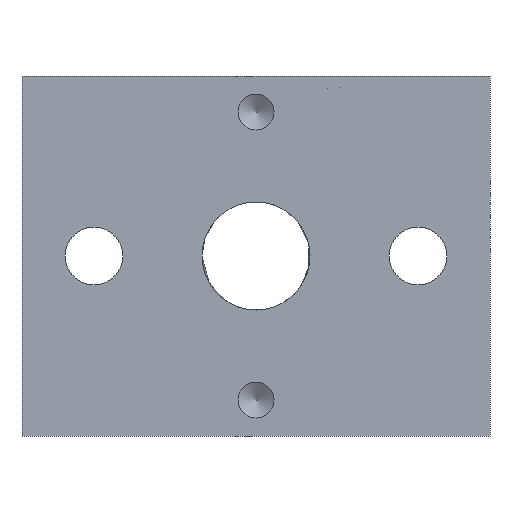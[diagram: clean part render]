
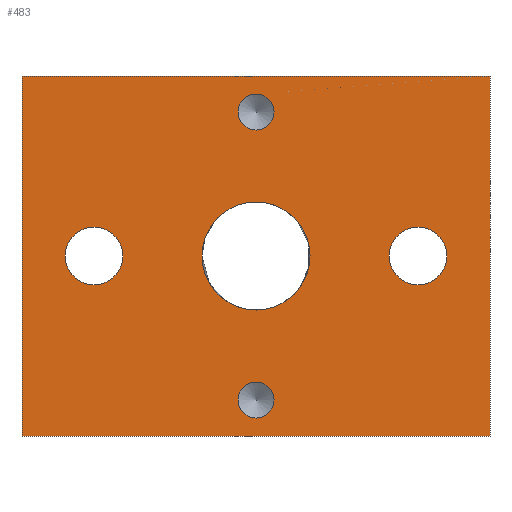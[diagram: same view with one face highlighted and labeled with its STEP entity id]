
A CAD part, front view. The second image highlights one B-rep face of the part: STEP entity #483.
In plain terms, the highlighted planar face has unit normal (0, -1, 0).
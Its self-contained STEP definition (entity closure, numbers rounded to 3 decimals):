
#26=FACE_BOUND('',#111,.T.);
#27=FACE_BOUND('',#112,.T.);
#28=FACE_BOUND('',#113,.T.);
#29=FACE_BOUND('',#114,.T.);
#30=FACE_BOUND('',#115,.T.);
#44=PLANE('',#557);
#73=FACE_OUTER_BOUND('',#110,.T.);
#110=EDGE_LOOP('',(#426,#427,#428,#429));
#111=EDGE_LOOP('',(#430));
#112=EDGE_LOOP('',(#431));
#113=EDGE_LOOP('',(#432));
#114=EDGE_LOOP('',(#433));
#115=EDGE_LOOP('',(#434));
#150=LINE('',#824,#187);
#154=LINE('',#832,#191);
#156=LINE('',#835,#193);
#157=LINE('',#837,#194);
#187=VECTOR('',#688,10.);
#191=VECTOR('',#696,10.);
#193=VECTOR('',#700,10.);
#194=VECTOR('',#703,10.);
#202=CIRCLE('',#521,1.);
#204=CIRCLE('',#525,1.);
#208=CIRCLE('',#532,1.6);
#212=CIRCLE('',#539,1.6);
#213=CIRCLE('',#541,3.);
#226=VERTEX_POINT('',#737);
#229=VERTEX_POINT('',#746);
#233=VERTEX_POINT('',#759);
#237=VERTEX_POINT('',#772);
#238=VERTEX_POINT('',#776);
#254=VERTEX_POINT('',#821);
#255=VERTEX_POINT('',#823);
#256=VERTEX_POINT('',#829);
#257=VERTEX_POINT('',#831);
#271=EDGE_CURVE('',#226,#226,#202,.T.);
#275=EDGE_CURVE('',#229,#229,#204,.T.);
#282=EDGE_CURVE('',#233,#233,#208,.T.);
#288=EDGE_CURVE('',#237,#237,#212,.T.);
#289=EDGE_CURVE('',#238,#238,#213,.T.);
#312=EDGE_CURVE('',#254,#255,#150,.T.);
#316=EDGE_CURVE('',#256,#257,#154,.T.);
#318=EDGE_CURVE('',#256,#255,#156,.T.);
#319=EDGE_CURVE('',#257,#254,#157,.T.);
#426=ORIENTED_EDGE('',*,*,#318,.T.);
#427=ORIENTED_EDGE('',*,*,#312,.F.);
#428=ORIENTED_EDGE('',*,*,#319,.F.);
#429=ORIENTED_EDGE('',*,*,#316,.F.);
#430=ORIENTED_EDGE('',*,*,#271,.T.);
#431=ORIENTED_EDGE('',*,*,#275,.T.);
#432=ORIENTED_EDGE('',*,*,#282,.T.);
#433=ORIENTED_EDGE('',*,*,#288,.T.);
#434=ORIENTED_EDGE('',*,*,#289,.T.);
#483=ADVANCED_FACE('',(#73,#26,#27,#28,#29,#30),#44,.T.);
#521=AXIS2_PLACEMENT_3D('',#738,#598,#599);
#525=AXIS2_PLACEMENT_3D('',#747,#608,#609);
#532=AXIS2_PLACEMENT_3D('',#761,#625,#626);
#539=AXIS2_PLACEMENT_3D('',#774,#641,#642);
#541=AXIS2_PLACEMENT_3D('',#777,#645,#646);
#557=AXIS2_PLACEMENT_3D('',#836,#701,#702);
#598=DIRECTION('center_axis',(0.,1.,0.));
#599=DIRECTION('ref_axis',(1.,0.,0.));
#608=DIRECTION('center_axis',(0.,1.,0.));
#609=DIRECTION('ref_axis',(1.,0.,0.));
#625=DIRECTION('center_axis',(0.,1.,0.));
#626=DIRECTION('ref_axis',(1.,0.,0.));
#641=DIRECTION('center_axis',(0.,1.,0.));
#642=DIRECTION('ref_axis',(1.,0.,0.));
#645=DIRECTION('center_axis',(0.,1.,0.));
#646=DIRECTION('ref_axis',(1.,0.,0.));
#688=DIRECTION('',(0.,0.,-1.));
#696=DIRECTION('',(0.,0.,1.));
#700=DIRECTION('',(1.,0.,0.));
#701=DIRECTION('center_axis',(0.,-1.,0.));
#702=DIRECTION('ref_axis',(0.,0.,-1.));
#703=DIRECTION('',(1.,0.,0.));
#737=CARTESIAN_POINT('',(-1.,0.,8.));
#738=CARTESIAN_POINT('Origin',(0.,0.,8.));
#746=CARTESIAN_POINT('',(-1.,0.,-8.));
#747=CARTESIAN_POINT('Origin',(0.,0.,-8.));
#759=CARTESIAN_POINT('',(-10.6,0.,0.));
#761=CARTESIAN_POINT('Origin',(-9.,0.,0.));
#772=CARTESIAN_POINT('',(7.4,0.,0.));
#774=CARTESIAN_POINT('Origin',(9.,0.,0.));
#776=CARTESIAN_POINT('',(-3.,0.,0.));
#777=CARTESIAN_POINT('Origin',(0.,0.,0.));
#821=CARTESIAN_POINT('',(13.,0.,10.));
#823=CARTESIAN_POINT('',(13.,0.,-10.));
#824=CARTESIAN_POINT('',(13.,0.,10.));
#829=CARTESIAN_POINT('',(-13.,0.,-10.));
#831=CARTESIAN_POINT('',(-13.,0.,10.));
#832=CARTESIAN_POINT('',(-13.,0.,10.));
#835=CARTESIAN_POINT('',(0.,0.,-10.));
#836=CARTESIAN_POINT('Origin',(0.,0.,10.));
#837=CARTESIAN_POINT('',(0.,0.,10.));
